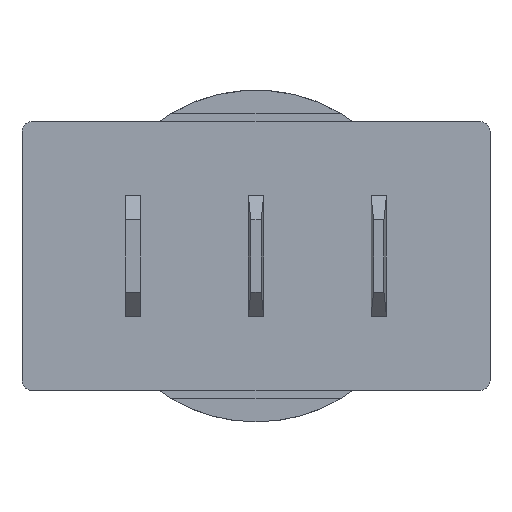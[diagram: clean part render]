
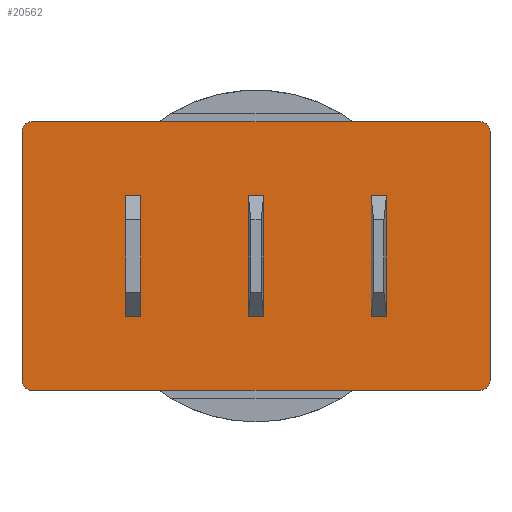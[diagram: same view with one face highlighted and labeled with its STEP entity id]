
A CAD part, front view. The second image highlights one B-rep face of the part: STEP entity #20562.
In plain terms, the highlighted planar face has unit normal (0, -1, 0).
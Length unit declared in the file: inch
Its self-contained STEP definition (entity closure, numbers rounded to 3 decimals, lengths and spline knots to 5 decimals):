
#2124=FACE_BOUND('',#3942,.T.);
#2125=FACE_BOUND('',#3943,.T.);
#2126=FACE_BOUND('',#3944,.T.);
#2237=CIRCLE('',#21890,0.01969);
#2241=CIRCLE('',#21896,0.01969);
#2245=CIRCLE('',#21902,0.01969);
#2249=CIRCLE('',#21909,0.01969);
#2710=FACE_OUTER_BOUND('',#3941,.T.);
#3941=EDGE_LOOP('',(#13118,#13119,#13120,#13121,#13122,#13123,#13124,#13125));
#3942=EDGE_LOOP('',(#13126,#13127,#13128,#13129));
#3943=EDGE_LOOP('',(#13130,#13131,#13132,#13133));
#3944=EDGE_LOOP('',(#13134,#13135,#13136,#13137));
#5230=LINE('',#32092,#6323);
#5239=LINE('',#32112,#6332);
#5246=LINE('',#32129,#6339);
#5255=LINE('',#32149,#6348);
#5259=LINE('',#32164,#6352);
#5264=LINE('',#32174,#6357);
#5274=LINE('',#32193,#6367);
#5275=LINE('',#32195,#6368);
#5277=LINE('',#32199,#6370);
#5280=LINE('',#32205,#6373);
#5282=LINE('',#32209,#6375);
#5285=LINE('',#32215,#6378);
#5302=LINE('',#32281,#6395);
#5303=LINE('',#32283,#6396);
#5304=LINE('',#32286,#6397);
#5305=LINE('',#32288,#6398);
#6323=VECTOR('',#24907,0.3937);
#6332=VECTOR('',#24924,0.3937);
#6339=VECTOR('',#24937,0.3937);
#6348=VECTOR('',#24954,0.3937);
#6352=VECTOR('',#24968,0.3937);
#6357=VECTOR('',#24975,0.3937);
#6367=VECTOR('',#24993,0.3937);
#6368=VECTOR('',#24996,0.3937);
#6370=VECTOR('',#25002,0.3937);
#6373=VECTOR('',#25011,0.3937);
#6375=VECTOR('',#25017,0.3937);
#6378=VECTOR('',#25026,0.3937);
#6395=VECTOR('',#25101,0.3937);
#6396=VECTOR('',#25104,0.3937);
#6397=VECTOR('',#25109,0.3937);
#6398=VECTOR('',#25112,0.3937);
#7415=VERTEX_POINT('',#32089);
#7416=VERTEX_POINT('',#32091);
#7422=VERTEX_POINT('',#32109);
#7423=VERTEX_POINT('',#32111);
#7429=VERTEX_POINT('',#32126);
#7430=VERTEX_POINT('',#32128);
#7436=VERTEX_POINT('',#32146);
#7437=VERTEX_POINT('',#32148);
#7442=VERTEX_POINT('',#32161);
#7443=VERTEX_POINT('',#32163);
#7447=VERTEX_POINT('',#32173);
#7452=VERTEX_POINT('',#32191);
#7456=VERTEX_POINT('',#32224);
#7457=VERTEX_POINT('',#32225);
#7461=VERTEX_POINT('',#32237);
#7462=VERTEX_POINT('',#32238);
#7466=VERTEX_POINT('',#32250);
#7467=VERTEX_POINT('',#32251);
#7471=VERTEX_POINT('',#32266);
#7472=VERTEX_POINT('',#32267);
#9618=EDGE_CURVE('',#7416,#7415,#5230,.T.);
#9628=EDGE_CURVE('',#7423,#7422,#5239,.T.);
#9636=EDGE_CURVE('',#7430,#7429,#5246,.T.);
#9646=EDGE_CURVE('',#7437,#7436,#5255,.T.);
#9653=EDGE_CURVE('',#7443,#7442,#5259,.T.);
#9658=EDGE_CURVE('',#7447,#7443,#5264,.T.);
#9668=EDGE_CURVE('',#7442,#7452,#5274,.T.);
#9669=EDGE_CURVE('',#7452,#7447,#5275,.T.);
#9671=EDGE_CURVE('',#7429,#7437,#5277,.T.);
#9674=EDGE_CURVE('',#7436,#7430,#5280,.T.);
#9676=EDGE_CURVE('',#7415,#7423,#5282,.T.);
#9679=EDGE_CURVE('',#7422,#7416,#5285,.T.);
#9683=EDGE_CURVE('',#7456,#7457,#2237,.T.);
#9689=EDGE_CURVE('',#7461,#7462,#2241,.T.);
#9695=EDGE_CURVE('',#7466,#7467,#2245,.T.);
#9703=EDGE_CURVE('',#7471,#7472,#2249,.T.);
#9712=EDGE_CURVE('',#7467,#7456,#5302,.T.);
#9713=EDGE_CURVE('',#7472,#7466,#5303,.T.);
#9714=EDGE_CURVE('',#7462,#7471,#5304,.T.);
#9715=EDGE_CURVE('',#7457,#7461,#5305,.T.);
#13118=ORIENTED_EDGE('',*,*,#9683,.F.);
#13119=ORIENTED_EDGE('',*,*,#9712,.F.);
#13120=ORIENTED_EDGE('',*,*,#9695,.F.);
#13121=ORIENTED_EDGE('',*,*,#9713,.F.);
#13122=ORIENTED_EDGE('',*,*,#9703,.F.);
#13123=ORIENTED_EDGE('',*,*,#9714,.F.);
#13124=ORIENTED_EDGE('',*,*,#9689,.F.);
#13125=ORIENTED_EDGE('',*,*,#9715,.F.);
#13126=ORIENTED_EDGE('',*,*,#9653,.T.);
#13127=ORIENTED_EDGE('',*,*,#9668,.T.);
#13128=ORIENTED_EDGE('',*,*,#9669,.T.);
#13129=ORIENTED_EDGE('',*,*,#9658,.T.);
#13130=ORIENTED_EDGE('',*,*,#9646,.T.);
#13131=ORIENTED_EDGE('',*,*,#9674,.T.);
#13132=ORIENTED_EDGE('',*,*,#9636,.T.);
#13133=ORIENTED_EDGE('',*,*,#9671,.T.);
#13134=ORIENTED_EDGE('',*,*,#9628,.T.);
#13135=ORIENTED_EDGE('',*,*,#9679,.T.);
#13136=ORIENTED_EDGE('',*,*,#9618,.T.);
#13137=ORIENTED_EDGE('',*,*,#9676,.T.);
#19600=PLANE('',#21918);
#20562=ADVANCED_FACE('',(#2710,#2124,#2125,#2126),#19600,.T.);
#21890=AXIS2_PLACEMENT_3D('',#32226,#25037,#25038);
#21896=AXIS2_PLACEMENT_3D('',#32239,#25051,#25052);
#21902=AXIS2_PLACEMENT_3D('',#32252,#25065,#25066);
#21909=AXIS2_PLACEMENT_3D('',#32268,#25083,#25084);
#21918=AXIS2_PLACEMENT_3D('',#32289,#25113,#25114);
#24907=DIRECTION('',(0.,0.,1.));
#24924=DIRECTION('',(0.,0.,-1.));
#24937=DIRECTION('',(0.,0.,1.));
#24954=DIRECTION('',(0.,0.,-1.));
#24968=DIRECTION('',(0.,0.,-1.));
#24975=DIRECTION('',(1.,0.,0.));
#24993=DIRECTION('',(-1.,0.,0.));
#24996=DIRECTION('',(0.,0.,1.));
#25002=DIRECTION('',(1.,0.,0.));
#25011=DIRECTION('',(-1.,0.,0.));
#25017=DIRECTION('',(1.,0.,0.));
#25026=DIRECTION('',(-1.,0.,0.));
#25037=DIRECTION('center_axis',(0.,1.,0.));
#25038=DIRECTION('ref_axis',(0.707,0.,0.707));
#25051=DIRECTION('center_axis',(0.,1.,0.));
#25052=DIRECTION('ref_axis',(0.707,0.,-0.707));
#25065=DIRECTION('center_axis',(0.,1.,0.));
#25066=DIRECTION('ref_axis',(-0.707,0.,0.707));
#25083=DIRECTION('center_axis',(0.,1.,0.));
#25084=DIRECTION('ref_axis',(-0.707,0.,-0.707));
#25101=DIRECTION('',(1.,0.,0.));
#25104=DIRECTION('',(0.,0.,1.));
#25109=DIRECTION('',(-1.,0.,0.));
#25112=DIRECTION('',(0.,0.,-1.));
#25113=DIRECTION('center_axis',(0.,-1.,0.));
#25114=DIRECTION('ref_axis',(0.,0.,-1.));
#32089=CARTESIAN_POINT('',(0.46457,0.,-0.15157));
#32091=CARTESIAN_POINT('',(0.46457,0.,-0.39961));
#32092=CARTESIAN_POINT('',(0.46457,0.,-0.27559));
#32109=CARTESIAN_POINT('',(0.49606,0.,-0.39961));
#32111=CARTESIAN_POINT('',(0.49606,0.,-0.15157));
#32112=CARTESIAN_POINT('',(0.49606,0.,-0.27559));
#32126=CARTESIAN_POINT('',(0.71654,0.,-0.15157));
#32128=CARTESIAN_POINT('',(0.71654,0.,-0.39961));
#32129=CARTESIAN_POINT('',(0.71654,0.,-0.27559));
#32146=CARTESIAN_POINT('',(0.74803,0.,-0.39961));
#32148=CARTESIAN_POINT('',(0.74803,0.,-0.15157));
#32149=CARTESIAN_POINT('',(0.74803,0.,-0.27559));
#32161=CARTESIAN_POINT('',(0.24409,0.,-0.39961));
#32163=CARTESIAN_POINT('',(0.24409,0.,-0.15157));
#32164=CARTESIAN_POINT('',(0.24409,0.,-0.27559));
#32173=CARTESIAN_POINT('',(0.2126,0.,-0.15157));
#32174=CARTESIAN_POINT('',(0.35433,0.,-0.15157));
#32191=CARTESIAN_POINT('',(0.2126,0.,-0.39961));
#32193=CARTESIAN_POINT('',(0.35433,0.,-0.39961));
#32195=CARTESIAN_POINT('',(0.2126,0.,-0.27559));
#32199=CARTESIAN_POINT('',(0.6063,0.,-0.15157));
#32205=CARTESIAN_POINT('',(0.6063,0.,-0.39961));
#32209=CARTESIAN_POINT('',(0.48031,0.,-0.15157));
#32215=CARTESIAN_POINT('',(0.48031,0.,-0.39961));
#32224=CARTESIAN_POINT('',(0.94094,0.,0.));
#32225=CARTESIAN_POINT('',(0.96063,0.,-0.01969));
#32226=CARTESIAN_POINT('Origin',(0.94094,0.,-0.01969));
#32237=CARTESIAN_POINT('',(0.96063,0.,-0.5315));
#32238=CARTESIAN_POINT('',(0.94094,0.,-0.55118));
#32239=CARTESIAN_POINT('Origin',(0.94094,0.,-0.5315));
#32250=CARTESIAN_POINT('',(0.,0.,-0.01969));
#32251=CARTESIAN_POINT('',(0.01969,0.,0.));
#32252=CARTESIAN_POINT('Origin',(0.01969,0.,-0.01969));
#32266=CARTESIAN_POINT('',(0.01969,0.,-0.55118));
#32267=CARTESIAN_POINT('',(0.,0.,-0.5315));
#32268=CARTESIAN_POINT('Origin',(0.01969,0.,-0.5315));
#32281=CARTESIAN_POINT('',(0.,0.,0.));
#32283=CARTESIAN_POINT('',(0.,0.,-0.55118));
#32286=CARTESIAN_POINT('',(0.96063,0.,-0.55118));
#32288=CARTESIAN_POINT('',(0.96063,0.,0.));
#32289=CARTESIAN_POINT('Origin',(0.48031,0.,-0.27559));
